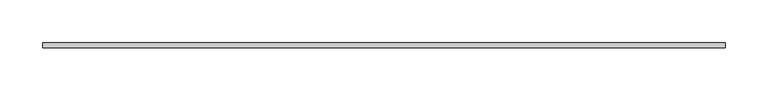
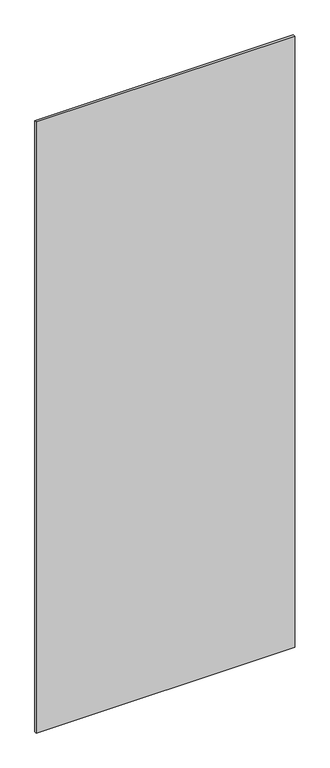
"""IFC4 building model written with IfcOpenShell, lengths in millimetres: proxy geometry, AQUAPANEL showcase solid : AQUAPANEL showcase solid."""

from ifc_helpers import new_model, si_unit, origin, origin_with_axes, place, context, project, spatial, polyline, outline, extrude, source, transform, mapped, element, save


def generic_models_780f60a9(model_context):
    return source(origin(), model_context, "Body", "SweptSolid", [
        extrude(outline(polyline([(17886.0136184, 15439.3863455), (18686.0136184, 15439.3863455), (18686.0136184, 15433.3863455), (17886.0136184, 15433.3863455), (17886.0136184, 15439.3863455)])), origin_with_axes(), (0.0, 0.0, 1.0), 2000.0),
    ])


if __name__ == "__main__":
    model = new_model("IFC4")
    model_context = context("Model", 3, world=origin())
    ifc_project = project(units=[si_unit("LENGTHUNIT", "METRE", prefix="MILLI")], contexts=[model_context])
    site = spatial("IfcSite", under=ifc_project)
    building = spatial("IfcBuilding", under=site)
    placement = place(None, origin())
    generic_models_shape = generic_models_780f60a9(model_context)
    element("IfcBuildingElementProxy", 1, Name="AQUAPANEL showcase solid : AQUAPANEL showcase solid", ObjectType="AQUAPANEL showcase solid : AQUAPANEL showcase solid", at=placement, inside=building, context=model_context, shape_type="MappedRepresentation", body=[
        mapped(generic_models_shape, transform((0.0, 0.0, 0.0), x_axis=(1.0, 0.0, 0.0), y_axis=(0.0, 1.0, 0.0), z_axis=(0.0, 0.0, 1.0))),
    ])
    save(model, "model.ifc")
